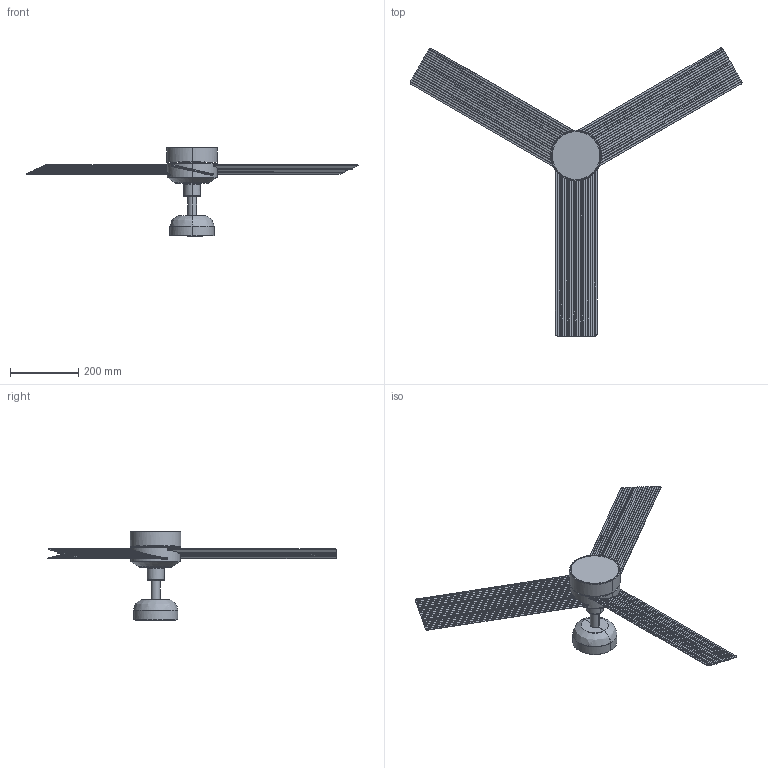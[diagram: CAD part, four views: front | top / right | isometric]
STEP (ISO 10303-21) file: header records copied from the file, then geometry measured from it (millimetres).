
FILE_DESCRIPTION(/* description */ (''),/* implementation_level */ '2;1');
FILE_NAME(/* name */ '34289WP-1TW.step',/* time_stamp */ '2024-04-16T10:15:13+02:00',/* author */ ('RenataManzini'),/* organization */ (''),/* preprocessor_version */ 'ST-DEVELOPER v20',/* originating_system */ 'AutoCAD Mechanical',/* authorisation */ '');
FILE_SCHEMA (('AUTOMOTIVE_DESIGN { 1 0 10303 214 3 1 1 }'));
Length unit declared in the file: millimetre
Products named in the file (4): Product; pieza_34285_34288_34289-1TW - Cruiser-483610-_3D_; pieza_34285_34288_34289-1TW - Cruiser without light-1060_dwg_ABW2C6__
___-483583-_3D_; pieza_34285_34288_34289-1TW - Cruiser without light-1060_dwg_ABYP____
-483571-_3D_
Assembly tree (5 placements, depth 3):
  Product
    pieza_34285_34288_34289-1TW - Cruiser-483610-_3D_
      pieza_34285_34288_34289-1TW - Cruiser without light-1060_dwg_ABW2C6__
___-483583-_3D_
      pieza_34285_34288_34289-1TW - Cruiser without light-1060_dwg_ABYP____
-483571-_3D_  x3
Bounding box: 974.74 x 846.12 x 261.08 mm (x, y, z)
Volume: 820413.5 mm3; surface area: 662068 mm2
Topology: 3 solids, 7 shells, 383 faces, 1109 edges, 714 vertices
Faces by surface type: plane 252, cylinder 106, torus 17, bspline 4, cone 4
Entity records: 10046 total; most frequent: CARTESIAN_POINT 3327, ORIENTED_EDGE 1420, DIRECTION 1353, EDGE_CURVE 720, AXIS2_PLACEMENT_3D 474, VERTEX_POINT 457, LINE 405, VECTOR 405
